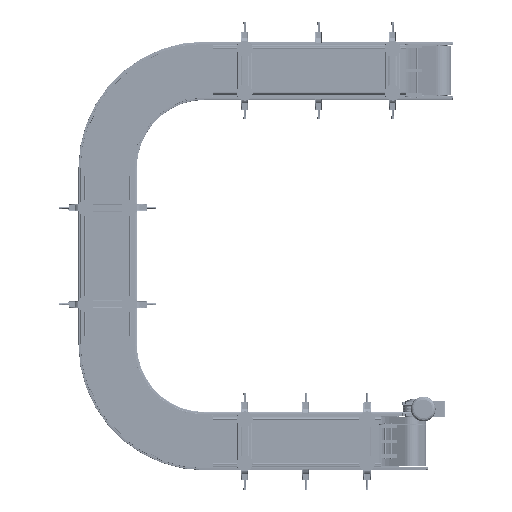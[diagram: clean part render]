
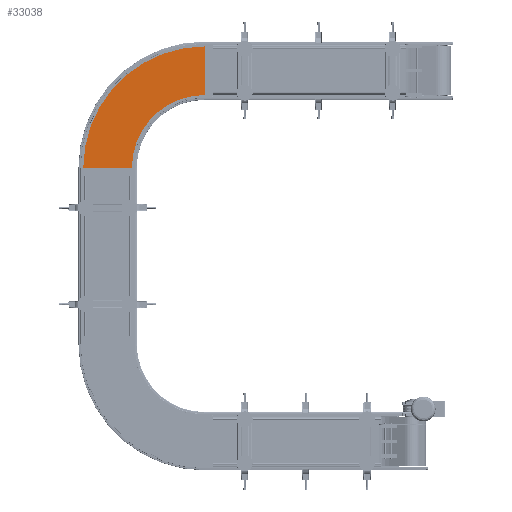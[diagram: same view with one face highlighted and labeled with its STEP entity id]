
A CAD part, front view. The second image highlights one B-rep face of the part: STEP entity #33038.
In plain terms, the highlighted planar face has unit normal (0, -1, 0).
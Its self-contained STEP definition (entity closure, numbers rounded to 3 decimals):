
#4043 = ORIENTED_EDGE ( 'NONE', *, *, #175039, .F. ) ;
#9819 = ORIENTED_EDGE ( 'NONE', *, *, #174546, .T. ) ;
#12015 = DIRECTION ( 'NONE',  ( 0., 0., 1. ) ) ;
#12649 = AXIS2_PLACEMENT_3D ( 'NONE', #163279, #68229, #12015 ) ;
#12989 = ORIENTED_EDGE ( 'NONE', *, *, #212200, .T. ) ;
#13338 = DIRECTION ( 'NONE',  ( 0., 0., 1. ) ) ;
#14569 = DIRECTION ( 'NONE',  ( 0., 1., 0. ) ) ;
#28398 = CIRCLE ( 'NONE', #128173, 457.6 ) ;
#28472 = CIRCLE ( 'NONE', #12649, 762.4 ) ;
#33011 = ORIENTED_EDGE ( 'NONE', *, *, #61994, .F. ) ;
#33038 = ADVANCED_FACE ( 'NONE', ( #83204 ), #103160, .T. ) ;
#39349 = EDGE_LOOP ( 'NONE', ( #12989, #33011, #4043, #9819 ) ) ;
#55906 = CARTESIAN_POINT ( 'NONE',  ( 1715., -120.83, 1855.4 ) ) ;
#61994 = EDGE_CURVE ( 'NONE', #171752, #156263, #226865, .T. ) ;
#68229 = DIRECTION ( 'NONE',  ( 0., 1., 0. ) ) ;
#69762 = CARTESIAN_POINT ( 'NONE',  ( 1715., -120.83, 1550.6 ) ) ;
#74308 = DIRECTION ( 'NONE',  ( -1., 0., 0. ) ) ;
#83204 = FACE_OUTER_BOUND ( 'NONE', #39349, .T. ) ;
#103160 = PLANE ( 'NONE',  #187185 ) ;
#109179 = VECTOR ( 'NONE', #74308, 1000. ) ;
#121970 = CARTESIAN_POINT ( 'NONE',  ( 2477.4, -120.83, 1093. ) ) ;
#124549 = CARTESIAN_POINT ( 'NONE',  ( 1715., -120.83, 1550.6 ) ) ;
#128173 = AXIS2_PLACEMENT_3D ( 'NONE', #205902, #14569, #13338 ) ;
#146861 = CARTESIAN_POINT ( 'NONE',  ( 2172.6, -120.83, 1093. ) ) ;
#148081 = VECTOR ( 'NONE', #184823, 1000. ) ;
#156263 = VERTEX_POINT ( 'NONE', #221068 ) ;
#159491 = DIRECTION ( 'NONE',  ( 1., 0., 0. ) ) ;
#162297 = VERTEX_POINT ( 'NONE', #55906 ) ;
#163279 = CARTESIAN_POINT ( 'NONE',  ( 1715., -120.83, 1093. ) ) ;
#171752 = VERTEX_POINT ( 'NONE', #121970 ) ;
#174546 = EDGE_CURVE ( 'NONE', #162297, #176109, #183608, .T. ) ;
#175039 = EDGE_CURVE ( 'NONE', #162297, #171752, #28472, .T. ) ;
#176109 = VERTEX_POINT ( 'NONE', #124549 ) ;
#183608 = LINE ( 'NONE', #69762, #148081 ) ;
#184823 = DIRECTION ( 'NONE',  ( 0., 0., -1. ) ) ;
#187185 = AXIS2_PLACEMENT_3D ( 'NONE', #198292, #236970, #159491 ) ;
#198292 = CARTESIAN_POINT ( 'NONE',  ( 1715., -120.83, 1550.6 ) ) ;
#205902 = CARTESIAN_POINT ( 'NONE',  ( 1715., -120.83, 1093. ) ) ;
#212200 = EDGE_CURVE ( 'NONE', #176109, #156263, #28398, .T. ) ;
#221068 = CARTESIAN_POINT ( 'NONE',  ( 2172.6, -120.83, 1093. ) ) ;
#226865 = LINE ( 'NONE', #146861, #109179 ) ;
#236970 = DIRECTION ( 'NONE',  ( 0., -1., 0. ) ) ;
